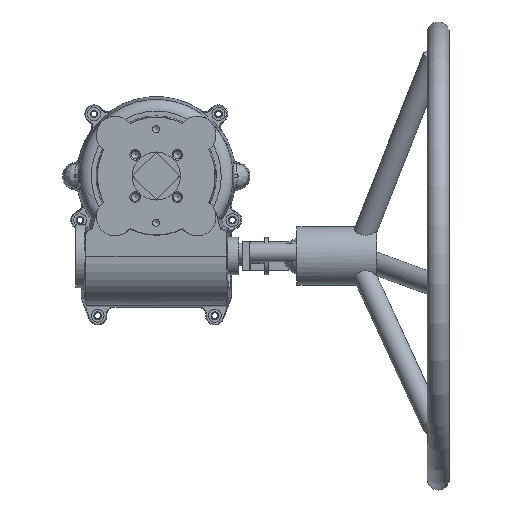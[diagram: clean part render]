
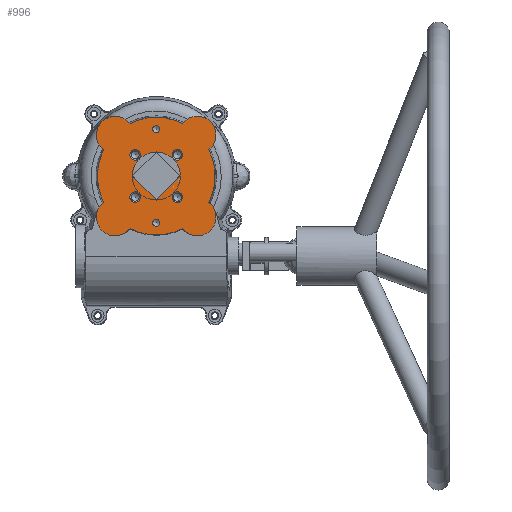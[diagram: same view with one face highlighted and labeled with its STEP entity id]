
A CAD part, top view. The second image highlights one B-rep face of the part: STEP entity #996.
In plain terms, the highlighted planar face has unit normal (0, 0, 1).
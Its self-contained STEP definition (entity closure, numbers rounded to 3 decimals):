
#996 = ADVANCED_FACE( '', ( #2218, #2219, #2220, #2221, #2222, #2223, #2224, #2225 ), #2226, .F. );
#2218 = FACE_BOUND( '', #4793, .T. );
#2219 = FACE_BOUND( '', #4794, .T. );
#2220 = FACE_BOUND( '', #4795, .T. );
#2221 = FACE_BOUND( '', #4796, .T. );
#2222 = FACE_BOUND( '', #4797, .T. );
#2223 = FACE_BOUND( '', #4798, .T. );
#2224 = FACE_OUTER_BOUND( '', #4799, .T. );
#2225 = FACE_BOUND( '', #4800, .T. );
#2226 = PLANE( '', #4801 );
#4793 = EDGE_LOOP( '', ( #8035 ) );
#4794 = EDGE_LOOP( '', ( #8036 ) );
#4795 = EDGE_LOOP( '', ( #8037 ) );
#4796 = EDGE_LOOP( '', ( #8038 ) );
#4797 = EDGE_LOOP( '', ( #8039 ) );
#4798 = EDGE_LOOP( '', ( #8040 ) );
#4799 = EDGE_LOOP( '', ( #8041, #8042, #8043, #8044, #8045, #8046, #8047, #8048 ) );
#4800 = EDGE_LOOP( '', ( #8049 ) );
#4801 = AXIS2_PLACEMENT_3D( '', #8050, #8051, #8052 );
#8035 = ORIENTED_EDGE( '', *, *, #11288, .T. );
#8036 = ORIENTED_EDGE( '', *, *, #11289, .T. );
#8037 = ORIENTED_EDGE( '', *, *, #11290, .T. );
#8038 = ORIENTED_EDGE( '', *, *, #10798, .T. );
#8039 = ORIENTED_EDGE( '', *, *, #11291, .T. );
#8040 = ORIENTED_EDGE( '', *, *, #11292, .T. );
#8041 = ORIENTED_EDGE( '', *, *, #11293, .F. );
#8042 = ORIENTED_EDGE( '', *, *, #11294, .F. );
#8043 = ORIENTED_EDGE( '', *, *, #11295, .F. );
#8044 = ORIENTED_EDGE( '', *, *, #10861, .F. );
#8045 = ORIENTED_EDGE( '', *, *, #11296, .T. );
#8046 = ORIENTED_EDGE( '', *, *, #11297, .T. );
#8047 = ORIENTED_EDGE( '', *, *, #11298, .T. );
#8048 = ORIENTED_EDGE( '', *, *, #11299, .F. );
#8049 = ORIENTED_EDGE( '', *, *, #11300, .F. );
#8050 = CARTESIAN_POINT( '', ( 276.883, 112.321, 40.5 ) );
#8051 = DIRECTION( '', ( 0., 0., -1. ) );
#8052 = DIRECTION( '', ( -1., 0., 0. ) );
#10798 = EDGE_CURVE( '', #12306, #12306, #12307, .T. );
#10861 = EDGE_CURVE( '', #12419, #12421, #12422, .T. );
#11288 = EDGE_CURVE( '', #13114, #13114, #13115, .T. );
#11289 = EDGE_CURVE( '', #13116, #13116, #13117, .T. );
#11290 = EDGE_CURVE( '', #13118, #13118, #13119, .T. );
#11291 = EDGE_CURVE( '', #13120, #13120, #13121, .T. );
#11292 = EDGE_CURVE( '', #13122, #13122, #13123, .T. );
#11293 = EDGE_CURVE( '', #13124, #13125, #13126, .T. );
#11294 = EDGE_CURVE( '', #13127, #13124, #13128, .T. );
#11295 = EDGE_CURVE( '', #12421, #13127, #13129, .T. );
#11296 = EDGE_CURVE( '', #12419, #13130, #13131, .T. );
#11297 = EDGE_CURVE( '', #13130, #13132, #13133, .T. );
#11298 = EDGE_CURVE( '', #13132, #13134, #13135, .T. );
#11299 = EDGE_CURVE( '', #13125, #13134, #13136, .T. );
#11300 = EDGE_CURVE( '', #13137, #13137, #13138, .T. );
#12306 = VERTEX_POINT( '', #14625 );
#12307 = CIRCLE( '', #14626, 4.5 );
#12419 = VERTEX_POINT( '', #14993 );
#12421 = VERTEX_POINT( '', #14998 );
#12422 = CIRCLE( '', #14999, 50.105 );
#13114 = VERTEX_POINT( '', #16689 );
#13115 = CIRCLE( '', #16690, 3. );
#13116 = VERTEX_POINT( '', #16691 );
#13117 = CIRCLE( '', #16692, 3. );
#13118 = VERTEX_POINT( '', #16693 );
#13119 = CIRCLE( '', #16694, 4.5 );
#13120 = VERTEX_POINT( '', #16695 );
#13121 = CIRCLE( '', #16696, 4.5 );
#13122 = VERTEX_POINT( '', #16697 );
#13123 = CIRCLE( '', #16698, 4.5 );
#13124 = VERTEX_POINT( '', #16699 );
#13125 = VERTEX_POINT( '', #16700 );
#13126 = CIRCLE( '', #16701, 16. );
#13127 = VERTEX_POINT( '', #16702 );
#13128 = CIRCLE( '', #16703, 50.105 );
#13129 = CIRCLE( '', #16704, 16. );
#13130 = VERTEX_POINT( '', #16705 );
#13131 = CIRCLE( '', #16706, 16. );
#13132 = VERTEX_POINT( '', #16707 );
#13133 = CIRCLE( '', #16708, 50.105 );
#13134 = VERTEX_POINT( '', #16709 );
#13135 = CIRCLE( '', #16710, 16. );
#13136 = CIRCLE( '', #16711, 50.105 );
#13137 = VERTEX_POINT( '', #16712 );
#13138 = CIRCLE( '', #16713, 11.75 );
#14625 = CARTESIAN_POINT( '', ( -18., 16.5, 40.5 ) );
#14626 = AXIS2_PLACEMENT_3D( '', #19771, #19772, #19773 );
#14993 = CARTESIAN_POINT( '', ( -22.368, 74.835, 40.5 ) );
#14998 = CARTESIAN_POINT( '', ( 22.368, 74.835, 40.5 ) );
#14999 = AXIS2_PLACEMENT_3D( '', #19846, #19847, #19848 );
#16689 = CARTESIAN_POINT( '', ( 0., 67., 40.5 ) );
#16690 = AXIS2_PLACEMENT_3D( '', #20594, #20595, #20596 );
#16691 = CARTESIAN_POINT( '', ( 0., -13., 40.5 ) );
#16692 = AXIS2_PLACEMENT_3D( '', #20597, #20598, #20599 );
#16693 = CARTESIAN_POINT( '', ( 18., 16.5, 40.5 ) );
#16694 = AXIS2_PLACEMENT_3D( '', #20600, #20601, #20602 );
#16695 = CARTESIAN_POINT( '', ( -18., 52.5, 40.5 ) );
#16696 = AXIS2_PLACEMENT_3D( '', #20603, #20604, #20605 );
#16697 = CARTESIAN_POINT( '', ( 18., 52.5, 40.5 ) );
#16698 = AXIS2_PLACEMENT_3D( '', #20606, #20607, #20608 );
#16699 = CARTESIAN_POINT( '', ( 44.835, 7.632, 40.5 ) );
#16700 = CARTESIAN_POINT( '', ( 22.368, -14.835, 40.5 ) );
#16701 = AXIS2_PLACEMENT_3D( '', #20609, #20610, #20611 );
#16702 = CARTESIAN_POINT( '', ( 44.835, 52.368, 40.5 ) );
#16703 = AXIS2_PLACEMENT_3D( '', #20612, #20613, #20614 );
#16704 = AXIS2_PLACEMENT_3D( '', #20615, #20616, #20617 );
#16705 = CARTESIAN_POINT( '', ( -44.835, 52.368, 40.5 ) );
#16706 = AXIS2_PLACEMENT_3D( '', #20618, #20619, #20620 );
#16707 = CARTESIAN_POINT( '', ( -44.835, 7.632, 40.5 ) );
#16708 = AXIS2_PLACEMENT_3D( '', #20621, #20622, #20623 );
#16709 = CARTESIAN_POINT( '', ( -22.368, -14.835, 40.5 ) );
#16710 = AXIS2_PLACEMENT_3D( '', #20624, #20625, #20626 );
#16711 = AXIS2_PLACEMENT_3D( '', #20627, #20628, #20629 );
#16712 = CARTESIAN_POINT( '', ( 11.75, 30., 40.5 ) );
#16713 = AXIS2_PLACEMENT_3D( '', #20630, #20631, #20632 );
#19771 = CARTESIAN_POINT( '', ( -18., 12., 40.5 ) );
#19772 = DIRECTION( '', ( 0., 0., -1. ) );
#19773 = DIRECTION( '', ( 0., 1., 0. ) );
#19846 = CARTESIAN_POINT( '', ( 0., 30., 40.5 ) );
#19847 = DIRECTION( '', ( 0., 0., -1. ) );
#19848 = DIRECTION( '', ( -1., 0., 0. ) );
#20594 = CARTESIAN_POINT( '', ( 0., 70., 40.5 ) );
#20595 = DIRECTION( '', ( 0., 0., -1. ) );
#20596 = DIRECTION( '', ( 0., -1., 0. ) );
#20597 = CARTESIAN_POINT( '', ( 0., -10., 40.5 ) );
#20598 = DIRECTION( '', ( 0., 0., -1. ) );
#20599 = DIRECTION( '', ( 0., -1., 0. ) );
#20600 = CARTESIAN_POINT( '', ( 18., 12., 40.5 ) );
#20601 = DIRECTION( '', ( 0., 0., -1. ) );
#20602 = DIRECTION( '', ( 0., 1., 0. ) );
#20603 = CARTESIAN_POINT( '', ( -18., 48., 40.5 ) );
#20604 = DIRECTION( '', ( 0., 0., -1. ) );
#20605 = DIRECTION( '', ( 0., 1., 0. ) );
#20606 = CARTESIAN_POINT( '', ( 18., 48., 40.5 ) );
#20607 = DIRECTION( '', ( 0., 0., -1. ) );
#20608 = DIRECTION( '', ( 0., 1., 0. ) );
#20609 = CARTESIAN_POINT( '', ( 34.95, -4.95, 40.5 ) );
#20610 = DIRECTION( '', ( 0., 0., -1. ) );
#20611 = DIRECTION( '', ( -1., 0., 0. ) );
#20612 = CARTESIAN_POINT( '', ( 0., 30., 40.5 ) );
#20613 = DIRECTION( '', ( 0., 0., -1. ) );
#20614 = DIRECTION( '', ( -1., 0., 0. ) );
#20615 = CARTESIAN_POINT( '', ( 34.95, 64.95, 40.5 ) );
#20616 = DIRECTION( '', ( 0., 0., -1. ) );
#20617 = DIRECTION( '', ( -1., 0., 0. ) );
#20618 = CARTESIAN_POINT( '', ( -34.95, 64.95, 40.5 ) );
#20619 = DIRECTION( '', ( 0., 0., 1. ) );
#20620 = DIRECTION( '', ( 1., 0., 0. ) );
#20621 = CARTESIAN_POINT( '', ( 0., 30., 40.5 ) );
#20622 = DIRECTION( '', ( 0., 0., 1. ) );
#20623 = DIRECTION( '', ( 1., 0., 0. ) );
#20624 = CARTESIAN_POINT( '', ( -34.95, -4.95, 40.5 ) );
#20625 = DIRECTION( '', ( 0., 0., 1. ) );
#20626 = DIRECTION( '', ( 1., 0., 0. ) );
#20627 = CARTESIAN_POINT( '', ( 0., 30., 40.5 ) );
#20628 = DIRECTION( '', ( 0., 0., -1. ) );
#20629 = DIRECTION( '', ( -1., 0., 0. ) );
#20630 = CARTESIAN_POINT( '', ( 0., 30., 40.5 ) );
#20631 = DIRECTION( '', ( 0., 0., 1. ) );
#20632 = DIRECTION( '', ( 1., 0., 0. ) );
